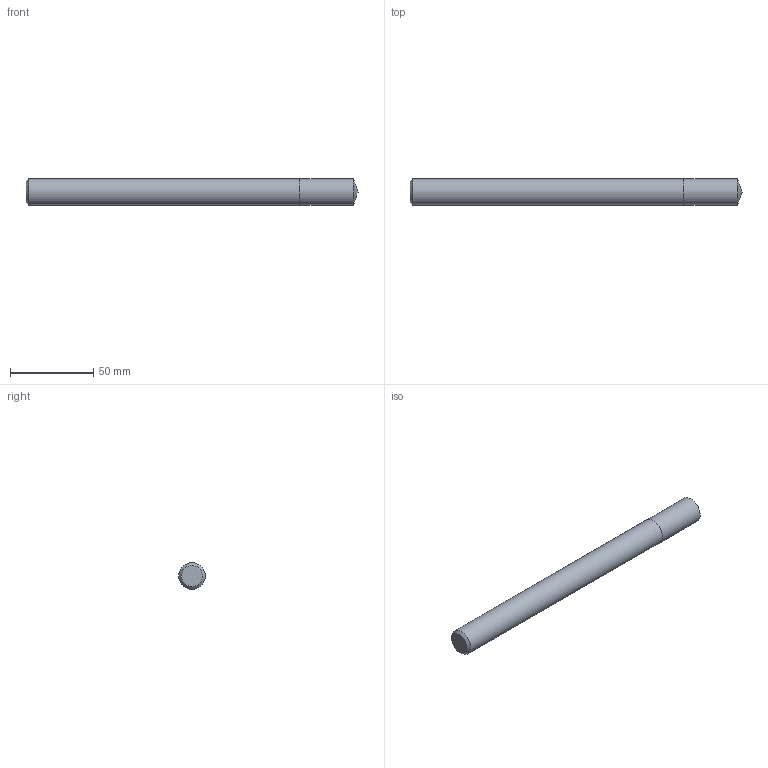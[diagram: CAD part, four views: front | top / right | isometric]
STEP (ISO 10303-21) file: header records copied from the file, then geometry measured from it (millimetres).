
FILE_DESCRIPTION (( 'STEP AP214' ), '1' );
FILE_NAME ('03-2240.STEP', '2022-02-07T07:07:40', ( 'USER' ), ( '' ), 'SwSTEP 2.0', 'SolidWorks 2018', '' );
FILE_SCHEMA (( 'AUTOMOTIVE_DESIGN' ));
Length unit declared in the file: millimetre
Products named in the file (1): 03-2240
Bounding box: 200 x 16 x 16 mm (x, y, z)
Volume: 39783.1 mm3; surface area: 10680 mm2
Topology: 2 solids, 2 shells, 7 faces, 11 edges, 7 vertices
Faces by surface type: plane 3, cylinder 2, cone 2
Full cylindrical faces by diameter (mm): 16 x2
Entity records: 189 total; most frequent: DIRECTION 26, CARTESIAN_POINT 18, AXIS2_PLACEMENT_3D 13, EDGE_LOOP 10, ORIENTED_EDGE 10, FACE_OUTER_BOUND 9, ADVANCED_FACE 7, UNCERTAINTY_MEASURE_WITH_UNIT 6
